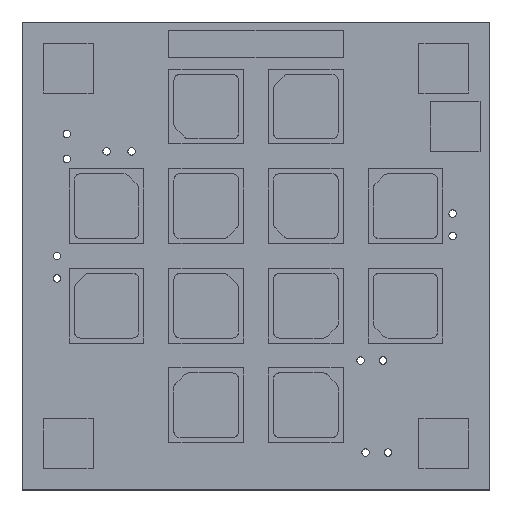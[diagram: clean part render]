
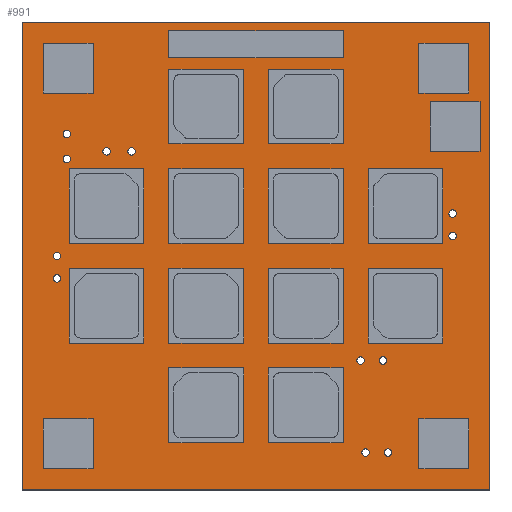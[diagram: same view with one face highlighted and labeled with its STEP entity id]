
A CAD part, top view. The second image highlights one B-rep face of the part: STEP entity #991.
In plain terms, the highlighted planar face has unit normal (0, 0, 1).
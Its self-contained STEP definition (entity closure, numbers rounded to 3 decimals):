
#264=DIRECTION('',(1.,0.,0.));
#265=VECTOR('',#264,18.8);
#266=CARTESIAN_POINT('',(-9.4,-9.4,1.6));
#267=LINE('',#266,#265);
#271=DIRECTION('',(0.,-1.,0.));
#272=VECTOR('',#271,18.8);
#273=CARTESIAN_POINT('',(-9.4,9.4,1.6));
#274=LINE('',#273,#272);
#278=DIRECTION('',(-1.,0.,0.));
#279=VECTOR('',#278,18.8);
#280=CARTESIAN_POINT('',(9.4,9.4,1.6));
#281=LINE('',#280,#279);
#285=DIRECTION('',(0.,1.,0.));
#286=VECTOR('',#285,18.8);
#287=CARTESIAN_POINT('',(9.4,-9.4,1.6));
#288=LINE('',#287,#286);
#292=CARTESIAN_POINT('',(-7.6,4.9,1.6));
#293=DIRECTION('',(0.,0.,1.));
#294=DIRECTION('',(1.,0.,0.));
#295=AXIS2_PLACEMENT_3D('',#292,#293,#294);
#300=CARTESIAN_POINT('',(-7.6,4.9,1.6));
#301=DIRECTION('',(0.,0.,1.));
#302=DIRECTION('',(-1.,0.,0.));
#303=AXIS2_PLACEMENT_3D('',#300,#301,#302);
#308=CARTESIAN_POINT('',(-7.6,3.9,1.6));
#309=DIRECTION('',(0.,0.,1.));
#310=DIRECTION('',(1.,0.,0.));
#311=AXIS2_PLACEMENT_3D('',#308,#309,#310);
#316=CARTESIAN_POINT('',(-7.6,3.9,1.6));
#317=DIRECTION('',(0.,0.,1.));
#318=DIRECTION('',(-1.,0.,0.));
#319=AXIS2_PLACEMENT_3D('',#316,#317,#318);
#324=CARTESIAN_POINT('',(4.4,-7.9,1.6));
#325=DIRECTION('',(0.,0.,1.));
#326=DIRECTION('',(1.,0.,0.));
#327=AXIS2_PLACEMENT_3D('',#324,#325,#326);
#332=CARTESIAN_POINT('',(4.4,-7.9,1.6));
#333=DIRECTION('',(0.,0.,1.));
#334=DIRECTION('',(-1.,0.,0.));
#335=AXIS2_PLACEMENT_3D('',#332,#333,#334);
#340=CARTESIAN_POINT('',(5.3,-7.9,1.6));
#341=DIRECTION('',(0.,0.,1.));
#342=DIRECTION('',(1.,0.,0.));
#343=AXIS2_PLACEMENT_3D('',#340,#341,#342);
#348=CARTESIAN_POINT('',(5.3,-7.9,1.6));
#349=DIRECTION('',(0.,0.,1.));
#350=DIRECTION('',(-1.,0.,0.));
#351=AXIS2_PLACEMENT_3D('',#348,#349,#350);
#356=CARTESIAN_POINT('',(5.1,-4.2,1.6));
#357=DIRECTION('',(0.,0.,1.));
#358=DIRECTION('',(1.,0.,0.));
#359=AXIS2_PLACEMENT_3D('',#356,#357,#358);
#364=CARTESIAN_POINT('',(5.1,-4.2,1.6));
#365=DIRECTION('',(0.,0.,1.));
#366=DIRECTION('',(-1.,0.,0.));
#367=AXIS2_PLACEMENT_3D('',#364,#365,#366);
#372=CARTESIAN_POINT('',(4.2,-4.2,1.6));
#373=DIRECTION('',(0.,0.,1.));
#374=DIRECTION('',(1.,0.,0.));
#375=AXIS2_PLACEMENT_3D('',#372,#373,#374);
#380=CARTESIAN_POINT('',(4.2,-4.2,1.6));
#381=DIRECTION('',(0.,0.,1.));
#382=DIRECTION('',(-1.,0.,0.));
#383=AXIS2_PLACEMENT_3D('',#380,#381,#382);
#388=CARTESIAN_POINT('',(7.9,0.8,1.6));
#389=DIRECTION('',(0.,0.,1.));
#390=DIRECTION('',(1.,0.,0.));
#391=AXIS2_PLACEMENT_3D('',#388,#389,#390);
#396=CARTESIAN_POINT('',(7.9,0.8,1.6));
#397=DIRECTION('',(0.,0.,1.));
#398=DIRECTION('',(-1.,0.,0.));
#399=AXIS2_PLACEMENT_3D('',#396,#397,#398);
#404=CARTESIAN_POINT('',(7.9,1.7,1.6));
#405=DIRECTION('',(0.,0.,1.));
#406=DIRECTION('',(1.,0.,0.));
#407=AXIS2_PLACEMENT_3D('',#404,#405,#406);
#412=CARTESIAN_POINT('',(7.9,1.7,1.6));
#413=DIRECTION('',(0.,0.,1.));
#414=DIRECTION('',(-1.,0.,0.));
#415=AXIS2_PLACEMENT_3D('',#412,#413,#414);
#420=CARTESIAN_POINT('',(-5.,4.2,1.6));
#421=DIRECTION('',(0.,0.,1.));
#422=DIRECTION('',(1.,0.,0.));
#423=AXIS2_PLACEMENT_3D('',#420,#421,#422);
#428=CARTESIAN_POINT('',(-5.,4.2,1.6));
#429=DIRECTION('',(0.,0.,1.));
#430=DIRECTION('',(-1.,0.,0.));
#431=AXIS2_PLACEMENT_3D('',#428,#429,#430);
#436=CARTESIAN_POINT('',(-6.,4.2,1.6));
#437=DIRECTION('',(0.,0.,1.));
#438=DIRECTION('',(1.,0.,0.));
#439=AXIS2_PLACEMENT_3D('',#436,#437,#438);
#444=CARTESIAN_POINT('',(-6.,4.2,1.6));
#445=DIRECTION('',(0.,0.,1.));
#446=DIRECTION('',(-1.,0.,0.));
#447=AXIS2_PLACEMENT_3D('',#444,#445,#446);
#452=CARTESIAN_POINT('',(-8.,-0.9,1.6));
#453=DIRECTION('',(0.,0.,1.));
#454=DIRECTION('',(1.,0.,0.));
#455=AXIS2_PLACEMENT_3D('',#452,#453,#454);
#460=CARTESIAN_POINT('',(-8.,-0.9,1.6));
#461=DIRECTION('',(0.,0.,1.));
#462=DIRECTION('',(-1.,0.,0.));
#463=AXIS2_PLACEMENT_3D('',#460,#461,#462);
#468=CARTESIAN_POINT('',(-8.,0.,1.6));
#469=DIRECTION('',(0.,0.,1.));
#470=DIRECTION('',(1.,0.,0.));
#471=AXIS2_PLACEMENT_3D('',#468,#469,#470);
#476=CARTESIAN_POINT('',(-8.,0.,1.6));
#477=DIRECTION('',(0.,0.,1.));
#478=DIRECTION('',(-1.,0.,0.));
#479=AXIS2_PLACEMENT_3D('',#476,#477,#478);
#660=CARTESIAN_POINT('',(-9.4,-9.4,1.6));
#661=CARTESIAN_POINT('',(9.4,-9.4,1.6));
#662=VERTEX_POINT('',#660);
#663=VERTEX_POINT('',#661);
#664=CARTESIAN_POINT('',(9.4,9.4,1.6));
#665=VERTEX_POINT('',#664);
#666=CARTESIAN_POINT('',(-9.4,9.4,1.6));
#667=VERTEX_POINT('',#666);
#672=CARTESIAN_POINT('',(-7.45,4.9,1.6));
#673=CARTESIAN_POINT('',(-7.75,4.9,1.6));
#674=VERTEX_POINT('',#672);
#675=VERTEX_POINT('',#673);
#680=CARTESIAN_POINT('',(-7.45,3.9,1.6));
#681=CARTESIAN_POINT('',(-7.75,3.9,1.6));
#682=VERTEX_POINT('',#680);
#683=VERTEX_POINT('',#681);
#688=CARTESIAN_POINT('',(4.55,-7.9,1.6));
#689=CARTESIAN_POINT('',(4.25,-7.9,1.6));
#690=VERTEX_POINT('',#688);
#691=VERTEX_POINT('',#689);
#696=CARTESIAN_POINT('',(5.45,-7.9,1.6));
#697=CARTESIAN_POINT('',(5.15,-7.9,1.6));
#698=VERTEX_POINT('',#696);
#699=VERTEX_POINT('',#697);
#704=CARTESIAN_POINT('',(5.25,-4.2,1.6));
#705=CARTESIAN_POINT('',(4.95,-4.2,1.6));
#706=VERTEX_POINT('',#704);
#707=VERTEX_POINT('',#705);
#712=CARTESIAN_POINT('',(4.35,-4.2,1.6));
#713=CARTESIAN_POINT('',(4.05,-4.2,1.6));
#714=VERTEX_POINT('',#712);
#715=VERTEX_POINT('',#713);
#720=CARTESIAN_POINT('',(8.05,0.8,1.6));
#721=CARTESIAN_POINT('',(7.75,0.8,1.6));
#722=VERTEX_POINT('',#720);
#723=VERTEX_POINT('',#721);
#728=CARTESIAN_POINT('',(8.05,1.7,1.6));
#729=CARTESIAN_POINT('',(7.75,1.7,1.6));
#730=VERTEX_POINT('',#728);
#731=VERTEX_POINT('',#729);
#736=CARTESIAN_POINT('',(-4.85,4.2,1.6));
#737=CARTESIAN_POINT('',(-5.15,4.2,1.6));
#738=VERTEX_POINT('',#736);
#739=VERTEX_POINT('',#737);
#744=CARTESIAN_POINT('',(-5.85,4.2,1.6));
#745=CARTESIAN_POINT('',(-6.15,4.2,1.6));
#746=VERTEX_POINT('',#744);
#747=VERTEX_POINT('',#745);
#752=CARTESIAN_POINT('',(-7.85,-0.9,1.6));
#753=CARTESIAN_POINT('',(-8.15,-0.9,1.6));
#754=VERTEX_POINT('',#752);
#755=VERTEX_POINT('',#753);
#760=CARTESIAN_POINT('',(-7.85,0.,1.6));
#761=CARTESIAN_POINT('',(-8.15,0.,1.6));
#762=VERTEX_POINT('',#760);
#763=VERTEX_POINT('',#761);
#908=CARTESIAN_POINT('',(0.,0.,1.6));
#909=DIRECTION('',(0.,0.,1.));
#910=DIRECTION('',(1.,0.,0.));
#911=AXIS2_PLACEMENT_3D('',#908,#909,#910);
#912=PLANE('',#911);
#913=ORIENTED_EDGE('',*,*,#860,.F.);
#914=ORIENTED_EDGE('',*,*,#875,.F.);
#915=ORIENTED_EDGE('',*,*,#889,.F.);
#916=ORIENTED_EDGE('',*,*,#902,.F.);
#917=EDGE_LOOP('',(#913,#914,#915,#916));
#918=FACE_OUTER_BOUND('',#917,.F.);
#920=ORIENTED_EDGE('',*,*,#919,.T.);
#922=ORIENTED_EDGE('',*,*,#921,.T.);
#923=EDGE_LOOP('',(#920,#922));
#924=FACE_BOUND('',#923,.F.);
#926=ORIENTED_EDGE('',*,*,#925,.T.);
#928=ORIENTED_EDGE('',*,*,#927,.T.);
#929=EDGE_LOOP('',(#926,#928));
#930=FACE_BOUND('',#929,.F.);
#932=ORIENTED_EDGE('',*,*,#931,.T.);
#934=ORIENTED_EDGE('',*,*,#933,.T.);
#935=EDGE_LOOP('',(#932,#934));
#936=FACE_BOUND('',#935,.F.);
#938=ORIENTED_EDGE('',*,*,#937,.T.);
#940=ORIENTED_EDGE('',*,*,#939,.T.);
#941=EDGE_LOOP('',(#938,#940));
#942=FACE_BOUND('',#941,.F.);
#944=ORIENTED_EDGE('',*,*,#943,.T.);
#946=ORIENTED_EDGE('',*,*,#945,.T.);
#947=EDGE_LOOP('',(#944,#946));
#948=FACE_BOUND('',#947,.F.);
#950=ORIENTED_EDGE('',*,*,#949,.T.);
#952=ORIENTED_EDGE('',*,*,#951,.T.);
#953=EDGE_LOOP('',(#950,#952));
#954=FACE_BOUND('',#953,.F.);
#956=ORIENTED_EDGE('',*,*,#955,.T.);
#958=ORIENTED_EDGE('',*,*,#957,.T.);
#959=EDGE_LOOP('',(#956,#958));
#960=FACE_BOUND('',#959,.F.);
#962=ORIENTED_EDGE('',*,*,#961,.T.);
#964=ORIENTED_EDGE('',*,*,#963,.T.);
#965=EDGE_LOOP('',(#962,#964));
#966=FACE_BOUND('',#965,.F.);
#968=ORIENTED_EDGE('',*,*,#967,.T.);
#970=ORIENTED_EDGE('',*,*,#969,.T.);
#971=EDGE_LOOP('',(#968,#970));
#972=FACE_BOUND('',#971,.F.);
#974=ORIENTED_EDGE('',*,*,#973,.T.);
#976=ORIENTED_EDGE('',*,*,#975,.T.);
#977=EDGE_LOOP('',(#974,#976));
#978=FACE_BOUND('',#977,.F.);
#980=ORIENTED_EDGE('',*,*,#979,.T.);
#982=ORIENTED_EDGE('',*,*,#981,.T.);
#983=EDGE_LOOP('',(#980,#982));
#984=FACE_BOUND('',#983,.F.);
#986=ORIENTED_EDGE('',*,*,#985,.T.);
#988=ORIENTED_EDGE('',*,*,#987,.T.);
#989=EDGE_LOOP('',(#986,#988));
#990=FACE_BOUND('',#989,.F.);
#296=CIRCLE('',#295,0.15);
#304=CIRCLE('',#303,0.15);
#312=CIRCLE('',#311,0.15);
#320=CIRCLE('',#319,0.15);
#328=CIRCLE('',#327,0.15);
#336=CIRCLE('',#335,0.15);
#344=CIRCLE('',#343,0.15);
#352=CIRCLE('',#351,0.15);
#360=CIRCLE('',#359,0.15);
#368=CIRCLE('',#367,0.15);
#376=CIRCLE('',#375,0.15);
#384=CIRCLE('',#383,0.15);
#392=CIRCLE('',#391,0.15);
#400=CIRCLE('',#399,0.15);
#408=CIRCLE('',#407,0.15);
#416=CIRCLE('',#415,0.15);
#424=CIRCLE('',#423,0.15);
#432=CIRCLE('',#431,0.15);
#440=CIRCLE('',#439,0.15);
#448=CIRCLE('',#447,0.15);
#456=CIRCLE('',#455,0.15);
#464=CIRCLE('',#463,0.15);
#472=CIRCLE('',#471,0.15);
#480=CIRCLE('',#479,0.15);
#860=EDGE_CURVE('',#662,#663,#267,.T.);
#875=EDGE_CURVE('',#667,#662,#274,.T.);
#889=EDGE_CURVE('',#665,#667,#281,.T.);
#902=EDGE_CURVE('',#663,#665,#288,.T.);
#919=EDGE_CURVE('',#674,#675,#296,.T.);
#921=EDGE_CURVE('',#675,#674,#304,.T.);
#925=EDGE_CURVE('',#682,#683,#312,.T.);
#927=EDGE_CURVE('',#683,#682,#320,.T.);
#931=EDGE_CURVE('',#690,#691,#328,.T.);
#933=EDGE_CURVE('',#691,#690,#336,.T.);
#937=EDGE_CURVE('',#698,#699,#344,.T.);
#939=EDGE_CURVE('',#699,#698,#352,.T.);
#943=EDGE_CURVE('',#706,#707,#360,.T.);
#945=EDGE_CURVE('',#707,#706,#368,.T.);
#949=EDGE_CURVE('',#714,#715,#376,.T.);
#951=EDGE_CURVE('',#715,#714,#384,.T.);
#955=EDGE_CURVE('',#722,#723,#392,.T.);
#957=EDGE_CURVE('',#723,#722,#400,.T.);
#961=EDGE_CURVE('',#730,#731,#408,.T.);
#963=EDGE_CURVE('',#731,#730,#416,.T.);
#967=EDGE_CURVE('',#738,#739,#424,.T.);
#969=EDGE_CURVE('',#739,#738,#432,.T.);
#973=EDGE_CURVE('',#746,#747,#440,.T.);
#975=EDGE_CURVE('',#747,#746,#448,.T.);
#979=EDGE_CURVE('',#754,#755,#456,.T.);
#981=EDGE_CURVE('',#755,#754,#464,.T.);
#985=EDGE_CURVE('',#762,#763,#472,.T.);
#987=EDGE_CURVE('',#763,#762,#480,.T.);
#991=ADVANCED_FACE('',(#918,#924,#930,#936,#942,#948,#954,#960,#966,#972,#978,
#984,#990),#912,.T.);
